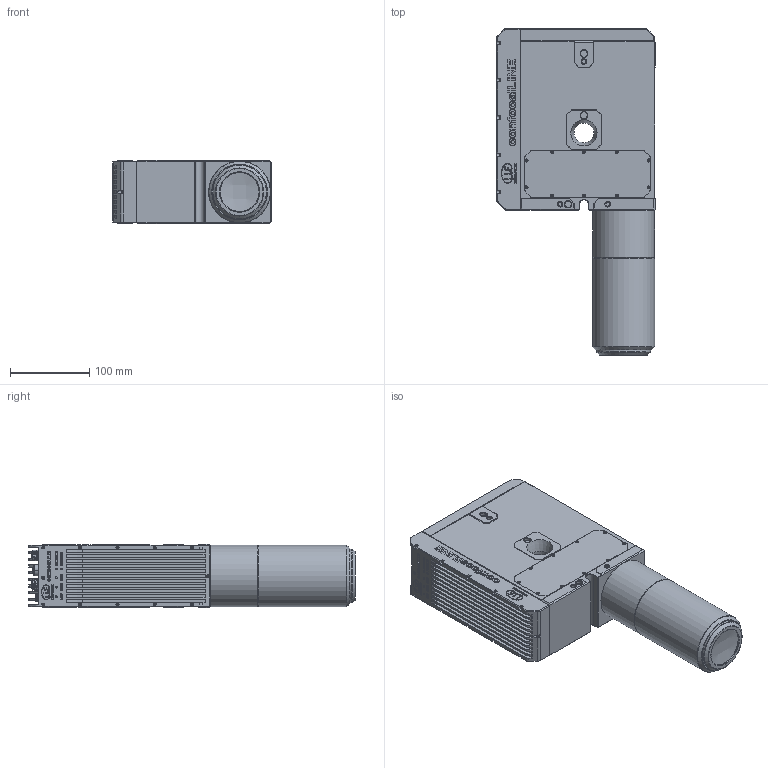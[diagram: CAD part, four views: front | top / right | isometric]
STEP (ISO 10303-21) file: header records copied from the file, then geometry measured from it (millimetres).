
FILE_DESCRIPTION (( 'STEP AP214' ), '1' );
FILE_NAME ('CLI8500-MB12,5.STEP', '2026-09-18T09:23:17', ( '' ), ( '' ), 'SwSTEP 2.0', 'SolidWorks 2024', '' );
FILE_SCHEMA (( 'AUTOMOTIVE_DESIGN' ));
Length unit declared in the file: millimetre
Products named in the file (1): CLI8500-MB12,5
Bounding box: 200 x 411.95 x 80 mm (x, y, z)
Volume: 4184014.1 mm3; surface area: 273575.5 mm2
Topology: 1 solids, 1 shells, 2921 faces, 7479 edges, 4843 vertices
Faces by surface type: plane 1807, bspline 541, cylinder 349, cone 168, torus 56
Full cylindrical faces by diameter (mm): 0.7 x29, 0.725 x8, 1.15 x3, 2.3 x5, 3.8 x32, 4 x10, 4.2 x1, 5 x9, 5.65 x1, 8 x3, 8.2 x1, 9.5 x1, 11 x1, 13.5 x2, 17 x3, 25 x1, 49 x1, 49.2 x1, 68 x1, 78 x2
Entity records: 154107 total; most frequent: CARTESIAN_POINT 55875, ORIENTED_EDGE 14306, DIRECTION 11798, EDGE_CURVE 7153, LINE 4850, VECTOR 4850, VERTEX_POINT 4738, AXIS2_PLACEMENT_3D 3474
